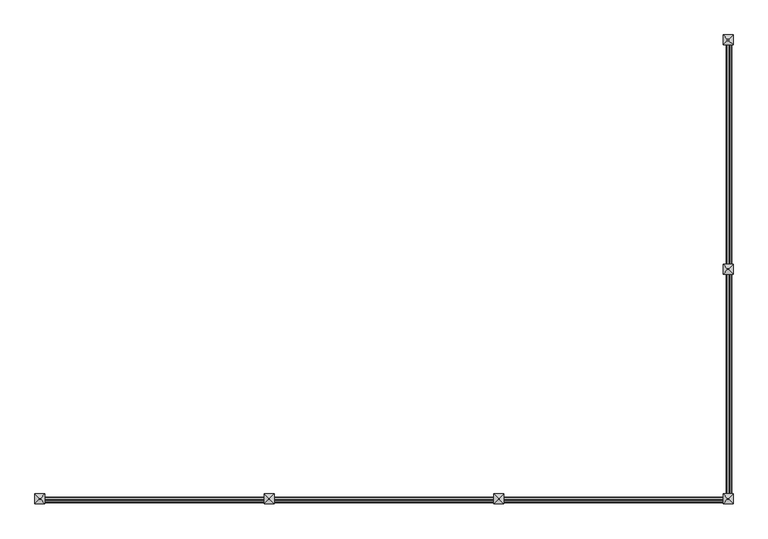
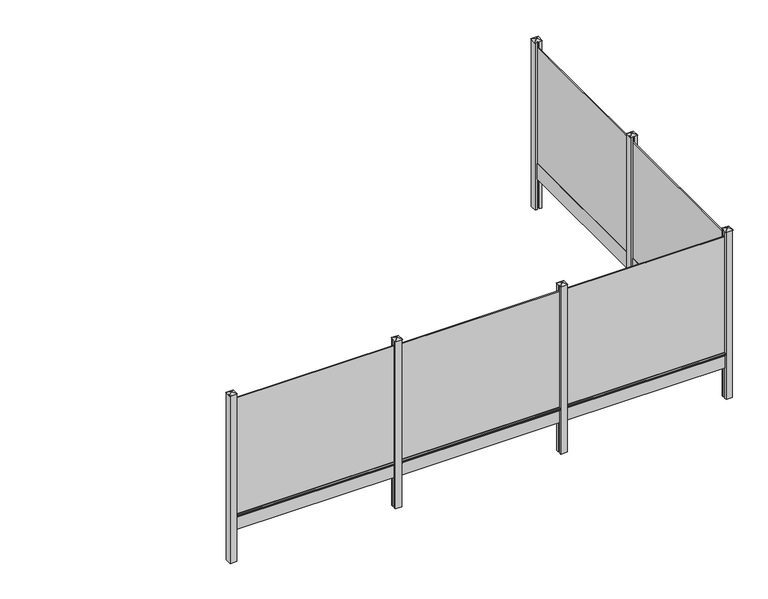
"""IFC4 building model written with IfcOpenShell, lengths in millimetres: railing geometry, Mehat - Railing - Plaque de Soubassement - Classique pour clôture rigide - 251.5x25x2.5/3.5 cm."""

from ifc_helpers import new_model, si_unit, point, frame, frame_2d, origin, origin_with_axes, place, context, project, spatial, polyline, circle_curve, trimmed, segment, composite_curve, outline, extrude, faceted_brep, source, transform, mapped, element, save


def railing_17b641a1(model_context):
    return source(origin(), model_context, "Body", "SolidModel", [
        extrude(outline(polyline([(-1163.7483484, -11112.4943936), (-1180.7483484, -11112.4943936), (-1180.7483484, -8597.4943936), (-1163.7483484, -8597.4943936), (-1163.7483484, -11112.4943936)])), frame((0.0, 0.0, 250.0), z_axis=(0.0, 0.0, 1.0), x_axis=(1.0, 0.0, 0.0)), (0.0, 0.0, 1.0), 1900.0),
        extrude(outline(polyline([(-1154.7483484, -11112.4943936), (-1189.7483484, -11112.4943936), (-1189.7483484, -8597.4943936), (-1154.7483484, -8597.4943936), (-1154.7483484, -11112.4943936)])), origin_with_axes(), (0.0, 0.0, 1.0), 250.0),
        extrude(outline(composite_curve([segment(polyline([(210.0, -1154.7483484), (217.1937129, -1133.1672095)]), True, "CONTINUOUS"), segment(trimmed(circle_curve(frame_2d((221.9371294, -1134.7483484)), 5.0), [point((217.1937129, -1133.1672095))], [point((221.9371294, -1129.7483484))], False, "CARTESIAN"), True, "CONTINUOUS"), segment(polyline([(221.9371294, -1129.7483484), (238.0628706, -1129.7483484)]), True, "CONTINUOUS"), segment(trimmed(circle_curve(frame_2d((238.0628706, -1134.7483484)), 5.0), [point((238.0628706, -1129.7483484))], [point((242.8062871, -1133.1672095))], False, "CARTESIAN"), True, "CONTINUOUS"), segment(polyline([(242.8062871, -1133.1672095), (250.0, -1154.7483484), (210.0, -1154.7483484)]), True, "CONTINUOUS")], self_intersect=False)), frame((0.0, -11087.4943936, 0.0), z_axis=(0.0, 1.0, 0.0), x_axis=(0.0, 0.0, 1.0)), (0.0, 0.0, 1.0), 2465.0),
        extrude(outline(polyline([(-1122.2483484, -11187.4943936), (-1154.7483484, -11187.4943936), (-1154.7483484, -11162.4943936), (-1189.7483484, -11162.4943936), (-1189.7483484, -11187.4943936), (-1222.2483484, -11187.4943936), (-1222.2483484, -11087.4943936), (-1189.7483484, -11087.4943936), (-1189.7483484, -11112.4943936), (-1154.7483484, -11112.4943936), (-1154.7483484, -11087.4943936), (-1122.2483484, -11087.4943936), (-1122.2483484, -11187.4943936)])), frame((0.0, 0.0, -500.0), z_axis=(0.0, 0.0, 1.0), x_axis=(1.0, 0.0, 0.0)), (0.0, 0.0, 1.0), 2750.0),
        faceted_brep([(-1178.6528945, -11131.1443936, 2275.4), (-1178.6528945, -11143.8443936, 2275.4), (-1165.9528945, -11143.8443936, 2275.4), (-1165.9528945, -11131.1443936, 2275.4), (-1228.5983484, -11081.1443936, 2250.0), (-1115.8983484, -11081.1443936, 2250.0), (-1115.8983484, -11193.8443936, 2250.0), (-1228.5983484, -11193.8443936, 2250.0)], [[[0, 1, 2, 3]], [[4, 5, 6, 7]], [[4, 0, 3, 5]], [[5, 3, 2, 6]], [[6, 2, 1, 7]], [[7, 1, 0, 4]]]),
        extrude(outline(polyline([(-1163.7483484, -13677.4943936), (-1180.7483484, -13677.4943936), (-1180.7483484, -11162.4943936), (-1163.7483484, -11162.4943936), (-1163.7483484, -13677.4943936)])), frame((0.0, 0.0, 250.0), z_axis=(0.0, 0.0, 1.0), x_axis=(1.0, 0.0, 0.0)), (0.0, 0.0, 1.0), 1900.0),
        extrude(outline(polyline([(-1154.7483484, -13677.4943936), (-1189.7483484, -13677.4943936), (-1189.7483484, -11162.4943936), (-1154.7483484, -11162.4943936), (-1154.7483484, -13677.4943936)])), origin_with_axes(), (0.0, 0.0, 1.0), 250.0),
        extrude(outline(composite_curve([segment(polyline([(210.0, -1154.7483484), (217.1937129, -1133.1672095)]), True, "CONTINUOUS"), segment(trimmed(circle_curve(frame_2d((221.9371294, -1134.7483484)), 5.0), [point((217.1937129, -1133.1672095))], [point((221.9371294, -1129.7483484))], False, "CARTESIAN"), True, "CONTINUOUS"), segment(polyline([(221.9371294, -1129.7483484), (238.0628706, -1129.7483484)]), True, "CONTINUOUS"), segment(trimmed(circle_curve(frame_2d((238.0628706, -1134.7483484)), 5.0), [point((238.0628706, -1129.7483484))], [point((242.8062871, -1133.1672095))], False, "CARTESIAN"), True, "CONTINUOUS"), segment(polyline([(242.8062871, -1133.1672095), (250.0, -1154.7483484), (210.0, -1154.7483484)]), True, "CONTINUOUS")], self_intersect=False)), frame((0.0, -13652.4943936, 0.0), z_axis=(0.0, 1.0, 0.0), x_axis=(0.0, 0.0, 1.0)), (0.0, 0.0, 1.0), 2465.0),
        extrude(outline(polyline([(-3712.2483484, -13710.9943936), (-3712.2483484, -13693.9943936), (-1197.2483484, -13693.9943936), (-1197.2483484, -13710.9943936), (-3712.2483484, -13710.9943936)])), frame((0.0, 0.0, 250.0), z_axis=(0.0, 0.0, 1.0), x_axis=(1.0, 0.0, 0.0)), (0.0, 0.0, 1.0), 1900.0),
        extrude(outline(polyline([(-3712.2483484, -13719.9943936), (-3712.2483484, -13684.9943936), (-1197.2483484, -13684.9943936), (-1197.2483484, -13719.9943936), (-3712.2483484, -13719.9943936)])), origin_with_axes(), (0.0, 0.0, 1.0), 250.0),
        extrude(outline(composite_curve([segment(polyline([(-13719.9943936, 210.0), (-13741.5755325, 217.1937129)]), True, "CONTINUOUS"), segment(trimmed(circle_curve(frame_2d((-13739.9943936, 221.9371294)), 5.0), [point((-13741.5755325, 217.1937129))], [point((-13744.9943936, 221.9371294))], False, "CARTESIAN"), True, "CONTINUOUS"), segment(polyline([(-13744.9943936, 221.9371294), (-13744.9943936, 238.0628706)]), True, "CONTINUOUS"), segment(trimmed(circle_curve(frame_2d((-13739.9943936, 238.0628706)), 5.0), [point((-13744.9943936, 238.0628706))], [point((-13741.5755325, 242.8062871))], False, "CARTESIAN"), True, "CONTINUOUS"), segment(polyline([(-13741.5755325, 242.8062871), (-13719.9943936, 250.0), (-13719.9943936, 210.0)]), True, "CONTINUOUS")], self_intersect=False)), frame((-3687.2483484, 0.0, 0.0), z_axis=(1.0, 0.0, 0.0), x_axis=(0.0, 1.0, 0.0)), (0.0, 0.0, 1.0), 2465.0),
        extrude(outline(polyline([(-3787.2483484, -13752.4943936), (-3787.2483484, -13719.9943936), (-3762.2483484, -13719.9943936), (-3762.2483484, -13684.9943936), (-3787.2483484, -13684.9943936), (-3787.2483484, -13652.4943936), (-3687.2483484, -13652.4943936), (-3687.2483484, -13684.9943936), (-3712.2483484, -13684.9943936), (-3712.2483484, -13719.9943936), (-3687.2483484, -13719.9943936), (-3687.2483484, -13752.4943936), (-3787.2483484, -13752.4943936)])), frame((0.0, 0.0, -500.0), z_axis=(0.0, 0.0, 1.0), x_axis=(1.0, 0.0, 0.0)), (0.0, 0.0, 1.0), 2750.0),
        faceted_brep([(-3730.8983484, -13696.0898475, 2275.4), (-3743.5983484, -13696.0898475, 2275.4), (-3743.5983484, -13708.7898475, 2275.4), (-3730.8983484, -13708.7898475, 2275.4), (-3680.8983484, -13646.1443936, 2250.0), (-3680.8983484, -13758.8443936, 2250.0), (-3793.5983484, -13758.8443936, 2250.0), (-3793.5983484, -13646.1443936, 2250.0)], [[[0, 1, 2, 3]], [[4, 5, 6, 7]], [[4, 0, 3, 5]], [[5, 3, 2, 6]], [[6, 2, 1, 7]], [[7, 1, 0, 4]]]),
        extrude(outline(polyline([(-6277.2483484, -13710.9943936), (-6277.2483484, -13693.9943936), (-3762.2483484, -13693.9943936), (-3762.2483484, -13710.9943936), (-6277.2483484, -13710.9943936)])), frame((0.0, 0.0, 250.0), z_axis=(0.0, 0.0, 1.0), x_axis=(1.0, 0.0, 0.0)), (0.0, 0.0, 1.0), 1900.0),
        extrude(outline(polyline([(-6277.2483484, -13719.9943936), (-6277.2483484, -13684.9943936), (-3762.2483484, -13684.9943936), (-3762.2483484, -13719.9943936), (-6277.2483484, -13719.9943936)])), origin_with_axes(), (0.0, 0.0, 1.0), 250.0),
        extrude(outline(composite_curve([segment(polyline([(-13719.9943936, 210.0), (-13741.5755325, 217.1937129)]), True, "CONTINUOUS"), segment(trimmed(circle_curve(frame_2d((-13739.9943936, 221.9371294)), 5.0), [point((-13741.5755325, 217.1937129))], [point((-13744.9943936, 221.9371294))], False, "CARTESIAN"), True, "CONTINUOUS"), segment(polyline([(-13744.9943936, 221.9371294), (-13744.9943936, 238.0628706)]), True, "CONTINUOUS"), segment(trimmed(circle_curve(frame_2d((-13739.9943936, 238.0628706)), 5.0), [point((-13744.9943936, 238.0628706))], [point((-13741.5755325, 242.8062871))], False, "CARTESIAN"), True, "CONTINUOUS"), segment(polyline([(-13741.5755325, 242.8062871), (-13719.9943936, 250.0), (-13719.9943936, 210.0)]), True, "CONTINUOUS")], self_intersect=False)), frame((-6252.2483484, 0.0, 0.0), z_axis=(1.0, 0.0, 0.0), x_axis=(0.0, 1.0, 0.0)), (0.0, 0.0, 1.0), 2465.0),
        extrude(outline(polyline([(-6352.2483484, -13752.4943936), (-6352.2483484, -13719.9943936), (-6327.2483484, -13719.9943936), (-6327.2483484, -13684.9943936), (-6352.2483484, -13684.9943936), (-6352.2483484, -13652.4943936), (-6252.2483484, -13652.4943936), (-6252.2483484, -13684.9943936), (-6277.2483484, -13684.9943936), (-6277.2483484, -13719.9943936), (-6252.2483484, -13719.9943936), (-6252.2483484, -13752.4943936), (-6352.2483484, -13752.4943936)])), frame((0.0, 0.0, -500.0), z_axis=(0.0, 0.0, 1.0), x_axis=(1.0, 0.0, 0.0)), (0.0, 0.0, 1.0), 2750.0),
        faceted_brep([(-6295.8983484, -13696.0898475, 2275.4), (-6308.5983484, -13696.0898475, 2275.4), (-6308.5983484, -13708.7898475, 2275.4), (-6295.8983484, -13708.7898475, 2275.4), (-6245.8983484, -13646.1443936, 2250.0), (-6245.8983484, -13758.8443936, 2250.0), (-6358.5983484, -13758.8443936, 2250.0), (-6358.5983484, -13646.1443936, 2250.0)], [[[0, 1, 2, 3]], [[4, 5, 6, 7]], [[4, 0, 3, 5]], [[5, 3, 2, 6]], [[6, 2, 1, 7]], [[7, 1, 0, 4]]]),
        extrude(outline(polyline([(-8842.2483484, -13710.9943936), (-8842.2483484, -13693.9943936), (-6327.2483484, -13693.9943936), (-6327.2483484, -13710.9943936), (-8842.2483484, -13710.9943936)])), frame((0.0, 0.0, 250.0), z_axis=(0.0, 0.0, 1.0), x_axis=(1.0, 0.0, 0.0)), (0.0, 0.0, 1.0), 1900.0),
        extrude(outline(polyline([(-8842.2483484, -13719.9943936), (-8842.2483484, -13684.9943936), (-6327.2483484, -13684.9943936), (-6327.2483484, -13719.9943936), (-8842.2483484, -13719.9943936)])), origin_with_axes(), (0.0, 0.0, 1.0), 250.0),
        extrude(outline(composite_curve([segment(polyline([(-13719.9943936, 210.0), (-13741.5755325, 217.1937129)]), True, "CONTINUOUS"), segment(trimmed(circle_curve(frame_2d((-13739.9943936, 221.9371294)), 5.0), [point((-13741.5755325, 217.1937129))], [point((-13744.9943936, 221.9371294))], False, "CARTESIAN"), True, "CONTINUOUS"), segment(polyline([(-13744.9943936, 221.9371294), (-13744.9943936, 238.0628706)]), True, "CONTINUOUS"), segment(trimmed(circle_curve(frame_2d((-13739.9943936, 238.0628706)), 5.0), [point((-13744.9943936, 238.0628706))], [point((-13741.5755325, 242.8062871))], False, "CARTESIAN"), True, "CONTINUOUS"), segment(polyline([(-13741.5755325, 242.8062871), (-13719.9943936, 250.0), (-13719.9943936, 210.0)]), True, "CONTINUOUS")], self_intersect=False)), frame((-8817.2483484, 0.0, 0.0), z_axis=(1.0, 0.0, 0.0), x_axis=(0.0, 1.0, 0.0)), (0.0, 0.0, 1.0), 2465.0),
        extrude(outline(polyline([(-1222.2483484, -13752.4943936), (-1222.2483484, -13719.9943936), (-1197.2483484, -13719.9943936), (-1197.2483484, -13684.9943936), (-1222.2483484, -13684.9943936), (-1222.2483484, -13652.4943936), (-1189.7483484, -13652.4943936), (-1189.7483484, -13677.4943936), (-1154.7483484, -13677.4943936), (-1154.7483484, -13652.4943936), (-1122.2483484, -13652.4943936), (-1122.2483484, -13752.4943936), (-1222.2483484, -13752.4943936)])), frame((0.0, 0.0, -500.0), z_axis=(0.0, 0.0, 1.0), x_axis=(1.0, 0.0, 0.0)), (0.0, 0.0, 1.0), 2750.0),
        faceted_brep([(-1165.8983484, -13696.0898475, 2275.4), (-1178.5983484, -13696.0898475, 2275.4), (-1178.5983484, -13708.7898475, 2275.4), (-1165.8983484, -13708.7898475, 2275.4), (-1115.8983484, -13646.1443936, 2250.0), (-1115.8983484, -13758.8443936, 2250.0), (-1228.5983484, -13758.8443936, 2250.0), (-1228.5983484, -13646.1443936, 2250.0)], [[[0, 1, 2, 3]], [[4, 5, 6, 7]], [[4, 0, 3, 5]], [[5, 3, 2, 6]], [[6, 2, 1, 7]], [[7, 1, 0, 4]]]),
        extrude(outline(polyline([(-1122.2483484, -8622.4943936), (-1154.7483484, -8622.4943936), (-1154.7483484, -8597.4943936), (-1189.7483484, -8597.4943936), (-1189.7483484, -8622.4943936), (-1222.2483484, -8622.4943936), (-1222.2483484, -8522.4943936), (-1122.2483484, -8522.4943936), (-1122.2483484, -8622.4943936)])), frame((0.0, 0.0, -500.0), z_axis=(0.0, 0.0, 1.0), x_axis=(1.0, 0.0, 0.0)), (0.0, 0.0, 1.0), 2750.0),
        faceted_brep([(-1178.6528945, -8566.1443936, 2275.4), (-1178.6528945, -8578.8443936, 2275.4), (-1165.9528945, -8578.8443936, 2275.4), (-1165.9528945, -8566.1443936, 2275.4), (-1228.5983484, -8516.1443936, 2250.0), (-1115.8983484, -8516.1443936, 2250.0), (-1115.8983484, -8628.8443936, 2250.0), (-1228.5983484, -8628.8443936, 2250.0)], [[[0, 1, 2, 3]], [[4, 5, 6, 7]], [[4, 0, 3, 5]], [[5, 3, 2, 6]], [[6, 2, 1, 7]], [[7, 1, 0, 4]]]),
        extrude(outline(polyline([(-8917.2483484, -13752.4943936), (-8917.2483484, -13652.4943936), (-8817.2483484, -13652.4943936), (-8817.2483484, -13684.9943936), (-8842.2483484, -13684.9943936), (-8842.2483484, -13719.9943936), (-8817.2483484, -13719.9943936), (-8817.2483484, -13752.4943936), (-8917.2483484, -13752.4943936)])), frame((0.0, 0.0, -500.0), z_axis=(0.0, 0.0, 1.0), x_axis=(1.0, 0.0, 0.0)), (0.0, 0.0, 1.0), 2750.0),
        faceted_brep([(-8860.8983484, -13696.0898475, 2275.4), (-8873.5983484, -13696.0898475, 2275.4), (-8873.5983484, -13708.7898475, 2275.4), (-8860.8983484, -13708.7898475, 2275.4), (-8810.8983484, -13646.1443936, 2250.0), (-8810.8983484, -13758.8443936, 2250.0), (-8923.5983484, -13758.8443936, 2250.0), (-8923.5983484, -13646.1443936, 2250.0)], [[[0, 1, 2, 3]], [[4, 5, 6, 7]], [[4, 0, 3, 5]], [[5, 3, 2, 6]], [[6, 2, 1, 7]], [[7, 1, 0, 4]]]),
    ])


if __name__ == "__main__":
    model = new_model("IFC4")
    model_context = context("Model", 3, world=origin())
    ifc_project = project(units=[si_unit("LENGTHUNIT", "METRE", prefix="MILLI")], contexts=[model_context])
    site = spatial("IfcSite", under=ifc_project)
    building = spatial("IfcBuilding", under=site)
    placement = place(None, origin())
    railing_shape = railing_17b641a1(model_context)
    element("IfcRailing", 1, ObjectType="Mehat - Railing - Plaque de Soubassement - Classique pour clôture rigide - 251.5x25x2.5/3.5 cm", at=placement, inside=building, context=model_context, shape_type="MappedRepresentation", body=[
        mapped(railing_shape, transform((0.0, 0.0, 0.0), x_axis=(1.0, 0.0, 0.0), y_axis=(0.0, 1.0, 0.0), z_axis=(0.0, 0.0, 1.0))),
    ])
    save(model, "model.ifc")
